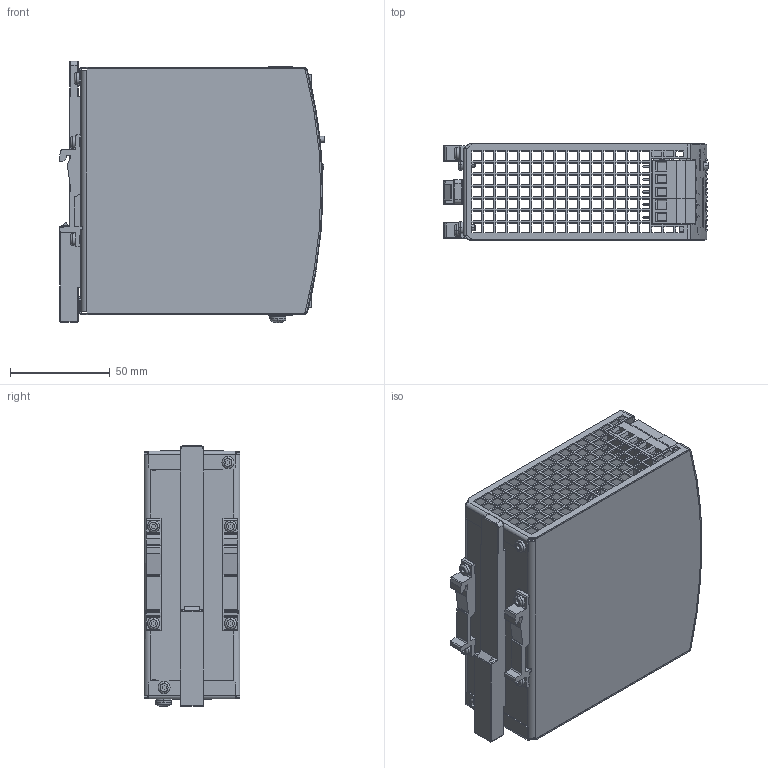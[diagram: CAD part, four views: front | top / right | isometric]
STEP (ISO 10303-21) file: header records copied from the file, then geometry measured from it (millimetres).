
FILE_DESCRIPTION (( 'STEP AP214' ), '1' );
FILE_NAME ('CP10.248.STEP', '2025-02-20T09:26:35', ( '' ), ( '' ), 'SwSTEP 2.0', 'SolidWorks 2024', '' );
FILE_SCHEMA (( 'AUTOMOTIVE_DESIGN' ));
Length unit declared in the file: millimetre
Products named in the file (16): 1018327_000_BRep_Config; 1014384_000_Feat_Config; 1018360_000_Feat_Config; 1018460_000_BRep_Config; 1015128_000_Feat_Config; 1018047_000_Feat_Config; 1018355_000_Feat_Config; 1018316_000_BRep_Config; 1018344_000_Feat_Config; CP10.248; 1018055_000_BRep_Config; 1018048_000_BRep_Config; 1018357_000_Feat_Config; 1018454_000_BRep_Config; 1022914_000_EL-xxx.940.00; 1018350_000
Assembly tree (25 placements, depth 2):
  CP10.248
    1018055_000_BRep_Config
    1018048_000_BRep_Config
    1018327_000_BRep_Config
    1018355_000_Feat_Config
    1018360_000_Feat_Config  x6
    1018350_000  x2
    1018357_000_Feat_Config
    1018344_000_Feat_Config
    1018454_000_BRep_Config  x2
    1018460_000_BRep_Config
    1015128_000_Feat_Config  x4
    1014384_000_Feat_Config
    1018316_000_BRep_Config
    1022914_000_EL-xxx.940.00
    1018047_000_Feat_Config
Bounding box: 132.38 x 48 x 130.77 mm (x, y, z)
Volume: 91086 mm3; surface area: 124258.1 mm2
Topology: 32 solids, 32 shells, 3665 faces, 10018 edges, 6581 vertices
Faces by surface type: plane 2719, cylinder 475, bspline 358, cone 71, torus 33, sphere 9
Entity records: 126912 total; most frequent: CARTESIAN_POINT 32948, ORIENTED_EDGE 17024, DIRECTION 14215, EDGE_CURVE 8512, LINE 6519, VECTOR 6519, VERTEX_POINT 5622, AXIS2_PLACEMENT_3D 3848
